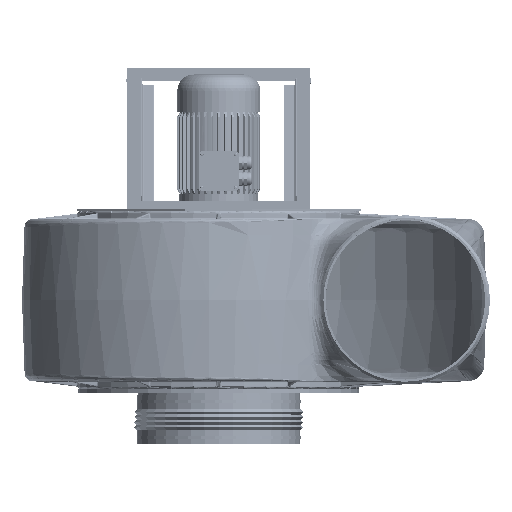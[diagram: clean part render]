
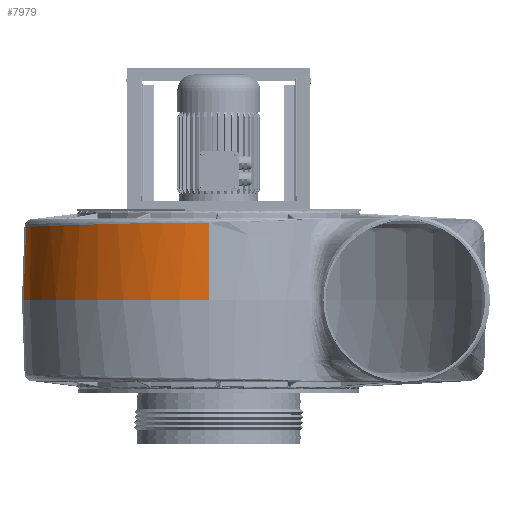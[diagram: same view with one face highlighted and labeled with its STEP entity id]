
A CAD part, top view. The second image highlights one B-rep face of the part: STEP entity #7979.
In plain terms, the highlighted face is a revolution surface.
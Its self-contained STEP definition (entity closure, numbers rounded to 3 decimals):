
#7979 = ADVANCED_FACE( '', ( #16137 ), #16138, .T. );
#16137 = FACE_OUTER_BOUND( '', #47178, .T. );
#16138 = SURFACE_OF_REVOLUTION( '', #47179, #47180 );
#47178 = EDGE_LOOP( '', ( #89092, #89093, #89094, #89095 ) );
#47179 = B_SPLINE_CURVE_WITH_KNOTS( '', 1, ( #89096, #89097, #89098, #89099, #89100, #89101 ), .UNSPECIFIED., .F., .F., ( 2, 1, 1, 1, 1, 2 ), ( -0.15, -0.01, 0., 1., 1.01, 1.15 ), .UNSPECIFIED. );
#47180 = AXIS1_PLACEMENT( '', #89102, #89103 );
#89092 = ORIENTED_EDGE( '', *, *, #106612, .T. );
#89093 = ORIENTED_EDGE( '', *, *, #101475, .F. );
#89094 = ORIENTED_EDGE( '', *, *, #106613, .F. );
#89095 = ORIENTED_EDGE( '', *, *, #105284, .F. );
#89096 = CARTESIAN_POINT( '', ( -287.56, -403.086, 378.263 ) );
#89097 = CARTESIAN_POINT( '', ( -252.56, -403.946, 379.109 ) );
#89098 = CARTESIAN_POINT( '', ( -250.06, -404.007, 379.169 ) );
#89099 = CARTESIAN_POINT( '', ( -0.06, -410.146, 385.21 ) );
#89100 = CARTESIAN_POINT( '', ( 2.44, -410.208, 385.271 ) );
#89101 = CARTESIAN_POINT( '', ( 37.44, -411.067, 386.116 ) );
#89102 = CARTESIAN_POINT( '', ( -125.06, -42.467, -42.467 ) );
#89103 = DIRECTION( '', ( 1., 0., 0. ) );
#101475 = EDGE_CURVE( '', #110256, #110258, #110259, .F. );
#105284 = EDGE_CURVE( '', #116127, #116128, #116129, .F. );
#106612 = EDGE_CURVE( '', #116127, #110258, #117860, .F. );
#106613 = EDGE_CURVE( '', #116128, #110256, #117861, .F. );
#110256 = VERTEX_POINT( '', #125993 );
#110258 = VERTEX_POINT( '', #125997 );
#110259 = CIRCLE( '', #125998, 564.001 );
#116127 = VERTEX_POINT( '', #145420 );
#116128 = VERTEX_POINT( '', #145421 );
#116129 = B_SPLINE_CURVE_WITH_KNOTS( '', 3, ( #145422, #145423, #145424, #145425, #145426, #145427, #145428, #145429, #145430, #145431, #145432, #145433, #145434, #145435, #145436, #145437, #145438, #145439, #145440, #145441, #145442, #145443, #145444, #145445, #145446, #145447, #145448, #145449, #145450, #145451, #145452, #145453, #145454, #145455, #145456, #145457, #145458, #145459, #145460, #145461, #145462, #145463, #145464, #145465, #145466, #145467, #145468, #145469 ), .UNSPECIFIED., .F., .F., ( 4, 2, 2, 2, 2, 2, 2, 2, 2, 2, 2, 2, 2, 2, 2, 2, 2, 2, 2, 2, 2, 2, 2, 4 ), ( 0., 0.063, 0.125, 0.188, 0.25, 0.313, 0.375, 0.438, 0.5, 0.563, 0.625, 0.688, 0.75, 0.813, 0.875, 0.938, 0.969, 0.984, 0.992, 0.996, 0.998, 0.999, 1., 1. ), .UNSPECIFIED. );
#117860 = B_SPLINE_CURVE_WITH_KNOTS( '', 1, ( #149794, #149795, #149796 ), .UNSPECIFIED., .F., .F., ( 2, 1, 2 ), ( 0., 0., 0.903 ), .UNSPECIFIED. );
#117861 = B_SPLINE_CURVE_WITH_KNOTS( '', 3, ( #149797, #149798, #149799, #149800 ), .UNSPECIFIED., .F., .F., ( 4, 4 ), ( 0., 0.954 ), .UNSPECIFIED. );
#125993 = CARTESIAN_POINT( '', ( -0.03, -29.253, 521.379 ) );
#125997 = CARTESIAN_POINT( '', ( -0.03, -601.915, 29.055 ) );
#125998 = AXIS2_PLACEMENT_3D( '', #156377, #156378, #156379 );
#145420 = CARTESIAN_POINT( '', ( -225.918, -594.14, 28.714 ) );
#145421 = CARTESIAN_POINT( '', ( -238.472, -28.761, 513.179 ) );
#145422 = CARTESIAN_POINT( '', ( -238.472, -28.761, 513.179 ) );
#145423 = CARTESIAN_POINT( '', ( -238.472, -45.757, 513.598 ) );
#145424 = CARTESIAN_POINT( '', ( -238.423, -62.735, 513.24 ) );
#145425 = CARTESIAN_POINT( '', ( -238.239, -96.661, 510.969 ) );
#145426 = CARTESIAN_POINT( '', ( -238.104, -113.536, 509.06 ) );
#145427 = CARTESIAN_POINT( '', ( -237.761, -147.113, 503.697 ) );
#145428 = CARTESIAN_POINT( '', ( -237.552, -163.743, 500.254 ) );
#145429 = CARTESIAN_POINT( '', ( -237.074, -196.691, 491.843 ) );
#145430 = CARTESIAN_POINT( '', ( -236.804, -212.937, 486.894 ) );
#145431 = CARTESIAN_POINT( '', ( -236.216, -244.979, 475.504 ) );
#145432 = CARTESIAN_POINT( '', ( -235.897, -260.705, 469.089 ) );
#145433 = CARTESIAN_POINT( '', ( -235.223, -291.573, 454.815 ) );
#145434 = CARTESIAN_POINT( '', ( -234.867, -306.647, 446.988 ) );
#145435 = CARTESIAN_POINT( '', ( -234.132, -336.081, 429.948 ) );
#145436 = CARTESIAN_POINT( '', ( -233.752, -350.377, 420.773 ) );
#145437 = CARTESIAN_POINT( '', ( -232.979, -378.129, 401.109 ) );
#145438 = CARTESIAN_POINT( '', ( -232.587, -391.526, 390.664 ) );
#145439 = CARTESIAN_POINT( '', ( -231.802, -417.364, 368.54 ) );
#145440 = CARTESIAN_POINT( '', ( -231.41, -429.748, 356.911 ) );
#145441 = CARTESIAN_POINT( '', ( -230.638, -453.453, 332.512 ) );
#145442 = CARTESIAN_POINT( '', ( -230.258, -464.721, 319.796 ) );
#145443 = CARTESIAN_POINT( '', ( -229.522, -486.093, 293.326 ) );
#145444 = CARTESIAN_POINT( '', ( -229.167, -496.149, 279.632 ) );
#145445 = CARTESIAN_POINT( '', ( -228.492, -515.007, 251.313 ) );
#145446 = CARTESIAN_POINT( '', ( -228.174, -523.766, 236.753 ) );
#145447 = CARTESIAN_POINT( '', ( -227.585, -539.951, 206.823 ) );
#145448 = CARTESIAN_POINT( '', ( -227.315, -547.339, 191.521 ) );
#145449 = CARTESIAN_POINT( '', ( -226.837, -560.711, 160.232 ) );
#145450 = CARTESIAN_POINT( '', ( -226.629, -566.666, 144.316 ) );
#145451 = CARTESIAN_POINT( '', ( -226.286, -577.113, 111.931 ) );
#145452 = CARTESIAN_POINT( '', ( -226.151, -581.583, 95.536 ) );
#145453 = CARTESIAN_POINT( '', ( -226.013, -587.157, 70.63 ) );
#145454 = CARTESIAN_POINT( '', ( -225.978, -588.823, 62.295 ) );
#145455 = CARTESIAN_POINT( '', ( -225.942, -591.033, 49.742 ) );
#145456 = CARTESIAN_POINT( '', ( -225.933, -591.721, 45.549 ) );
#145457 = CARTESIAN_POINT( '', ( -225.924, -592.682, 39.247 ) );
#145458 = CARTESIAN_POINT( '', ( -225.922, -592.991, 37.144 ) );
#145459 = CARTESIAN_POINT( '', ( -225.919, -593.435, 33.986 ) );
#145460 = CARTESIAN_POINT( '', ( -225.919, -593.58, 32.933 ) );
#145461 = CARTESIAN_POINT( '', ( -225.918, -593.793, 31.353 ) );
#145462 = CARTESIAN_POINT( '', ( -225.918, -593.864, 30.826 ) );
#145463 = CARTESIAN_POINT( '', ( -225.918, -593.968, 30.035 ) );
#145464 = CARTESIAN_POINT( '', ( -225.918, -594.003, 29.771 ) );
#145465 = CARTESIAN_POINT( '', ( -225.918, -594.054, 29.376 ) );
#145466 = CARTESIAN_POINT( '', ( -225.918, -594.071, 29.244 ) );
#145467 = CARTESIAN_POINT( '', ( -225.918, -594.106, 28.981 ) );
#145468 = CARTESIAN_POINT( '', ( -225.918, -594.122, 28.851 ) );
#145469 = CARTESIAN_POINT( '', ( -225.918, -594.14, 28.714 ) );
#149794 = CARTESIAN_POINT( '', ( -0.03, -601.915, 29.055 ) );
#149795 = CARTESIAN_POINT( '', ( -0.06, -601.914, 29.055 ) );
#149796 = CARTESIAN_POINT( '', ( -225.918, -594.14, 28.714 ) );
#149797 = CARTESIAN_POINT( '', ( -0.03, -29.253, 521.379 ) );
#149798 = CARTESIAN_POINT( '', ( -79.511, -29.089, 518.646 ) );
#149799 = CARTESIAN_POINT( '', ( -158.991, -28.925, 515.912 ) );
#149800 = CARTESIAN_POINT( '', ( -238.472, -28.761, 513.179 ) );
#156377 = CARTESIAN_POINT( '', ( -0.03, -42.467, -42.467 ) );
#156378 = DIRECTION( '', ( -1., 0., 0. ) );
#156379 = DIRECTION( '', ( 0., -1., 0. ) );
